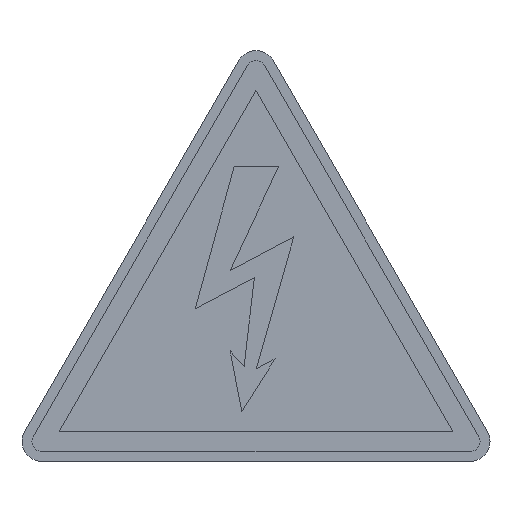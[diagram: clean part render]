
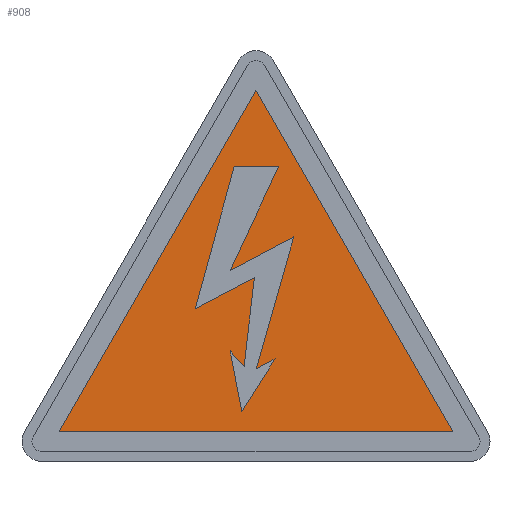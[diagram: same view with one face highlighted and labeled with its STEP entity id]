
A CAD part, top view. The second image highlights one B-rep face of the part: STEP entity #908.
In plain terms, the highlighted planar face has unit normal (0, 0, 1).
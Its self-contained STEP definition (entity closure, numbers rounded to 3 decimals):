
#52 = LINE ( 'NONE', #135, #92 ) ;
#53 = VECTOR ( 'NONE', #849, 1000. ) ;
#54 = DIRECTION ( 'NONE',  ( -0.115, -0.993, 0. ) ) ;
#58 = EDGE_CURVE ( 'NONE', #631, #1382, #1235, .T. ) ;
#69 = VERTEX_POINT ( 'NONE', #345 ) ;
#73 = VECTOR ( 'NONE', #1094, 1000. ) ;
#82 = EDGE_CURVE ( 'NONE', #1286, #543, #1222, .T. ) ;
#91 = ORIENTED_EDGE ( 'NONE', *, *, #618, .F. ) ;
#92 = VECTOR ( 'NONE', #1309, 1000. ) ;
#100 = LINE ( 'NONE', #519, #53 ) ;
#135 = CARTESIAN_POINT ( 'NONE',  ( -2.196, 29.632, 0.2 ) ) ;
#141 = DIRECTION ( 'NONE',  ( 0.273, 0.962, 0. ) ) ;
#162 = CARTESIAN_POINT ( 'NONE',  ( -19.804, 3., 0.2 ) ) ;
#165 = VECTOR ( 'NONE', #943, 1000. ) ;
#177 = LINE ( 'NONE', #821, #859 ) ;
#181 = DIRECTION ( 'NONE',  ( 1., 0., 0. ) ) ;
#192 = ORIENTED_EDGE ( 'NONE', *, *, #1174, .F. ) ;
#200 = ORIENTED_EDGE ( 'NONE', *, *, #676, .F. ) ;
#221 = LINE ( 'NONE', #968, #225 ) ;
#225 = VECTOR ( 'NONE', #141, 1000. ) ;
#227 = EDGE_CURVE ( 'NONE', #543, #1355, #616, .T. ) ;
#238 = LINE ( 'NONE', #363, #254 ) ;
#239 = DIRECTION ( 'NONE',  ( 0.885, 0.466, 0. ) ) ;
#254 = VECTOR ( 'NONE', #54, 1000. ) ;
#300 = VECTOR ( 'NONE', #239, 1000. ) ;
#301 = LINE ( 'NONE', #314, #636 ) ;
#314 = CARTESIAN_POINT ( 'NONE',  ( 0., 37.301, 0.2 ) ) ;
#345 = CARTESIAN_POINT ( 'NONE',  ( -0.164, 18.485, 0.2 ) ) ;
#350 = EDGE_CURVE ( 'NONE', #69, #744, #238, .T. ) ;
#363 = CARTESIAN_POINT ( 'NONE',  ( -1.199, 9.534, 0.2 ) ) ;
#364 = CARTESIAN_POINT ( 'NONE',  ( 0., 39.301, 0.2 ) ) ;
#367 = DIRECTION ( 'NONE',  ( 0.533, 0.846, 0. ) ) ;
#368 = ORIENTED_EDGE ( 'NONE', *, *, #597, .F. ) ;
#396 = CARTESIAN_POINT ( 'NONE',  ( 0.037, 9.314, 0.2 ) ) ;
#408 = VERTEX_POINT ( 'NONE', #588 ) ;
#414 = DIRECTION ( 'NONE',  ( -0.5, -0.866, 0. ) ) ;
#416 = ORIENTED_EDGE ( 'NONE', *, *, #890, .F. ) ;
#424 = CARTESIAN_POINT ( 'NONE',  ( 3.798, 22.567, 0.2 ) ) ;
#447 = CARTESIAN_POINT ( 'NONE',  ( -0.164, 18.485, 0.2 ) ) ;
#501 = VECTOR ( 'NONE', #1126, 1000. ) ;
#517 = LINE ( 'NONE', #750, #165 ) ;
#519 = CARTESIAN_POINT ( 'NONE',  ( 0.037, 9.314, 0.2 ) ) ;
#535 = ORIENTED_EDGE ( 'NONE', *, *, #826, .F. ) ;
#543 = VERTEX_POINT ( 'NONE', #864 ) ;
#565 = ORIENTED_EDGE ( 'NONE', *, *, #58, .F. ) ;
#585 = EDGE_LOOP ( 'NONE', ( #416, #856, #1341, #200, #1320, #192, #535, #368, #565, #91, #725 ) ) ;
#588 = CARTESIAN_POINT ( 'NONE',  ( 2.269, 29.632, 0.2 ) ) ;
#597 = EDGE_CURVE ( 'NONE', #1382, #1076, #1193, .T. ) ;
#604 = DIRECTION ( 'NONE',  ( 0.423, 0.906, 0. ) ) ;
#616 = LINE ( 'NONE', #1379, #878 ) ;
#618 = EDGE_CURVE ( 'NONE', #744, #631, #994, .T. ) ;
#623 = ORIENTED_EDGE ( 'NONE', *, *, #834, .T. ) ;
#631 = VERTEX_POINT ( 'NONE', #1218 ) ;
#636 = VECTOR ( 'NONE', #414, 1000. ) ;
#661 = CARTESIAN_POINT ( 'NONE',  ( -2.597, 11.1, 0.2 ) ) ;
#676 = EDGE_CURVE ( 'NONE', #1223, #408, #177, .T. ) ;
#704 = CARTESIAN_POINT ( 'NONE',  ( -1.431, 4.984, 0.2 ) ) ;
#717 = CARTESIAN_POINT ( 'NONE',  ( -2.196, 29.632, 0.2 ) ) ;
#725 = ORIENTED_EDGE ( 'NONE', *, *, #350, .F. ) ;
#734 = CARTESIAN_POINT ( 'NONE',  ( 1.917, 10.305, 0.2 ) ) ;
#744 = VERTEX_POINT ( 'NONE', #1152 ) ;
#750 = CARTESIAN_POINT ( 'NONE',  ( -2.597, 19.197, 0.2 ) ) ;
#764 = CARTESIAN_POINT ( 'NONE',  ( 1.917, 10.305, 0.2 ) ) ;
#781 = DIRECTION ( 'NONE',  ( 1., 0., 0. ) ) ;
#803 = VERTEX_POINT ( 'NONE', #1266 ) ;
#817 = VECTOR ( 'NONE', #367, 1000. ) ;
#821 = CARTESIAN_POINT ( 'NONE',  ( 2.269, 29.632, 0.2 ) ) ;
#826 = EDGE_CURVE ( 'NONE', #1076, #1288, #100, .T. ) ;
#834 = EDGE_CURVE ( 'NONE', #1355, #1286, #301, .T. ) ;
#849 = DIRECTION ( 'NONE',  ( -0.885, -0.466, 0. ) ) ;
#856 = ORIENTED_EDGE ( 'NONE', *, *, #1197, .F. ) ;
#859 = VECTOR ( 'NONE', #604, 1000. ) ;
#864 = CARTESIAN_POINT ( 'NONE',  ( 19.804, 3., 0.2 ) ) ;
#872 = LINE ( 'NONE', #879, #1243 ) ;
#878 = VECTOR ( 'NONE', #1304, 1000. ) ;
#879 = CARTESIAN_POINT ( 'NONE',  ( -6.107, 15.354, 0.2 ) ) ;
#890 = EDGE_CURVE ( 'NONE', #803, #69, #979, .T. ) ;
#898 = FACE_BOUND ( 'NONE', #585, .T. ) ;
#905 = CARTESIAN_POINT ( 'NONE',  ( -19.804, 3., 0.2 ) ) ;
#908 = ADVANCED_FACE ( 'NONE', ( #913, #898 ), #1144, .T. ) ;
#913 = FACE_OUTER_BOUND ( 'NONE', #1168, .T. ) ;
#943 = DIRECTION ( 'NONE',  ( -0.885, -0.466, 0. ) ) ;
#968 = CARTESIAN_POINT ( 'NONE',  ( 3.798, 22.567, 0.2 ) ) ;
#979 = LINE ( 'NONE', #447, #300 ) ;
#994 = LINE ( 'NONE', #661, #73 ) ;
#1033 = EDGE_CURVE ( 'NONE', #1095, #1223, #517, .T. ) ;
#1076 = VERTEX_POINT ( 'NONE', #734 ) ;
#1090 = AXIS2_PLACEMENT_3D ( 'NONE', #364, #1351, #181 ) ;
#1093 = VERTEX_POINT ( 'NONE', #717 ) ;
#1094 = DIRECTION ( 'NONE',  ( -0.666, 0.746, 0. ) ) ;
#1095 = VERTEX_POINT ( 'NONE', #424 ) ;
#1096 = CARTESIAN_POINT ( 'NONE',  ( -2.597, 19.197, 0.2 ) ) ;
#1126 = DIRECTION ( 'NONE',  ( 0.187, -0.982, 0. ) ) ;
#1144 = PLANE ( 'NONE',  #1090 ) ;
#1152 = CARTESIAN_POINT ( 'NONE',  ( -1.199, 9.534, 0.2 ) ) ;
#1167 = ORIENTED_EDGE ( 'NONE', *, *, #227, .T. ) ;
#1168 = EDGE_LOOP ( 'NONE', ( #623, #1254, #1167 ) ) ;
#1174 = EDGE_CURVE ( 'NONE', #1288, #1095, #221, .T. ) ;
#1180 = VECTOR ( 'NONE', #781, 1000. ) ;
#1193 = LINE ( 'NONE', #764, #817 ) ;
#1197 = EDGE_CURVE ( 'NONE', #1093, #803, #872, .T. ) ;
#1218 = CARTESIAN_POINT ( 'NONE',  ( -2.597, 11.1, 0.2 ) ) ;
#1222 = LINE ( 'NONE', #162, #1180 ) ;
#1223 = VERTEX_POINT ( 'NONE', #1096 ) ;
#1235 = LINE ( 'NONE', #1322, #501 ) ;
#1237 = EDGE_CURVE ( 'NONE', #408, #1093, #52, .T. ) ;
#1243 = VECTOR ( 'NONE', #1316, 1000. ) ;
#1248 = CARTESIAN_POINT ( 'NONE',  ( 0., 37.301, 0.2 ) ) ;
#1254 = ORIENTED_EDGE ( 'NONE', *, *, #82, .T. ) ;
#1266 = CARTESIAN_POINT ( 'NONE',  ( -6.107, 15.354, 0.2 ) ) ;
#1286 = VERTEX_POINT ( 'NONE', #905 ) ;
#1288 = VERTEX_POINT ( 'NONE', #396 ) ;
#1304 = DIRECTION ( 'NONE',  ( -0.5, 0.866, 0. ) ) ;
#1309 = DIRECTION ( 'NONE',  ( -1., 0., 0. ) ) ;
#1316 = DIRECTION ( 'NONE',  ( -0.264, -0.964, 0. ) ) ;
#1320 = ORIENTED_EDGE ( 'NONE', *, *, #1033, .F. ) ;
#1322 = CARTESIAN_POINT ( 'NONE',  ( -1.431, 4.984, 0.2 ) ) ;
#1341 = ORIENTED_EDGE ( 'NONE', *, *, #1237, .F. ) ;
#1351 = DIRECTION ( 'NONE',  ( 0., 0., 1. ) ) ;
#1355 = VERTEX_POINT ( 'NONE', #1248 ) ;
#1379 = CARTESIAN_POINT ( 'NONE',  ( 19.804, 3., 0.2 ) ) ;
#1382 = VERTEX_POINT ( 'NONE', #704 ) ;
